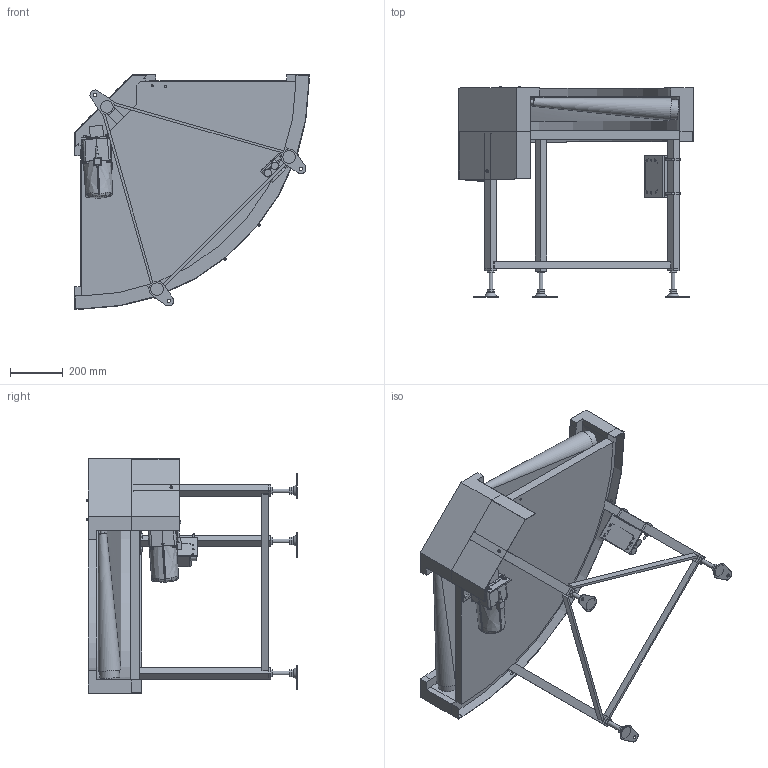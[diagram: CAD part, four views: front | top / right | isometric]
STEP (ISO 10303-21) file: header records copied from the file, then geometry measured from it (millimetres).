
FILE_DESCRIPTION( (''), '2;1');
FILE_NAME ('WEB-FBC-309-500-90°-L-K-60.stp','2025-10-17T09:59:13',(''),(''),'spGate 20.6.2 (****-****-****-****)','','');
FILE_SCHEMA (('AUTOMOTIVE_DESIGN'));
Length unit declared in the file: millimetre
Products named in the file (47): WEB-FBC-309-500-90_-L-K-60; TEMP_X_T-prt0; TEMP_X_T-prt1; TEMP_X_T-prt2; TEMP_X_T-prt3; TEMP_X_T-prt4; TEMP_X_T-prt5; TEMP_X_T-prt6; TEMP_X_T-prt7; TEMP_X_T-prt8; TEMP_X_T-prt9; TEMP_X_T-prt10; TEMP_X_T-prt11; TEMP_X_T-prt12; TEMP_X_T-prt13; TEMP_X_T-prt14; TEMP_X_T-prt15; TEMP_X_T-prt16; TEMP_X_T-prt17; TEMP_X_T-prt18; TEMP_X_T-prt19; TEMP_X_T-prt20; TEMP_X_T-prt21; TEMP_X_T-prt22; TEMP_X_T-prt23; TEMP_X_T-prt24; TEMP_X_T-prt25; TEMP_X_T-prt26; TEMP_X_T-prt27; TEMP_X_T-prt28; TEMP_X_T-prt29; TEMP_X_T-prt30; TEMP_X_T-prt31; TEMP_X_T-prt32; TEMP_X_T-prt33; TEMP_X_T-prt34; TEMP_X_T-prt35; TEMP_X_T-prt36; TEMP_X_T-prt37; TEMP_X_T-prt38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
Assembly tree (46 placements, depth 2):
  WEB-FBC-309-500-90_-L-K-60
    TEMP_X_T-prt0
    TEMP_X_T-prt1
    TEMP_X_T-prt2
    TEMP_X_T-prt3
    TEMP_X_T-prt4
    TEMP_X_T-prt5
    TEMP_X_T-prt6
    TEMP_X_T-prt7
    TEMP_X_T-prt8
    TEMP_X_T-prt9
    TEMP_X_T-prt10
    TEMP_X_T-prt11
    TEMP_X_T-prt12
    TEMP_X_T-prt13
    TEMP_X_T-prt14
    TEMP_X_T-prt15
    TEMP_X_T-prt16
    TEMP_X_T-prt17
    TEMP_X_T-prt18
    TEMP_X_T-prt19
    TEMP_X_T-prt20
    TEMP_X_T-prt21
    TEMP_X_T-prt22
    TEMP_X_T-prt23
    TEMP_X_T-prt24
    TEMP_X_T-prt25
    TEMP_X_T-prt26
    TEMP_X_T-prt27
    TEMP_X_T-prt28
    TEMP_X_T-prt29
    TEMP_X_T-prt30
    TEMP_X_T-prt31
    TEMP_X_T-prt32
    TEMP_X_T-prt33
    TEMP_X_T-prt34
    TEMP_X_T-prt35
    TEMP_X_T-prt36
    TEMP_X_T-prt37
    TEMP_X_T-prt38
    TEMP_X_T-prt39
    TEMP_X_T-prt40
    TEMP_X_T-prt41
    TEMP_X_T-prt42
    TEMP_X_T-prt43
    TEMP_X_T-prt44
    TEMP_X_T-prt45
Bounding box: 888 x 797.9 x 888 mm (x, y, z)
Volume: 68809061.7 mm3; surface area: 4822237.4 mm2
Topology: 46 solids, 46 shells, 1007 faces, 2547 edges, 1730 vertices
Faces by surface type: plane 653, cylinder 216, bspline 137, sphere 1
Full cylindrical faces by diameter (mm): 5 x14, 5.3 x2, 5.5 x3, 6 x10, 6.8 x3, 7 x4, 7.8 x1, 8 x16, 8.4 x7, 8.5 x4, 9 x9, 9.2 x9, 10 x11, 12.5 x4, 13 x7, 15 x4, 16 x12, 17 x7, 18 x1, 19 x2, 27.8 x3, 42 x1, 75 x2, 94 x1
Entity records: 57099 total; most frequent: CARTESIAN_POINT 11382, ORIENTED_EDGE 5084, DIRECTION 4872, COLOUR_RGB 3595, PRESENTATION_STYLE_ASSIGNMENT 3595, STYLED_ITEM 3595, EDGE_CURVE 2542, DRAUGHTING_PRE_DEFINED_CURVE_FONT 2542
